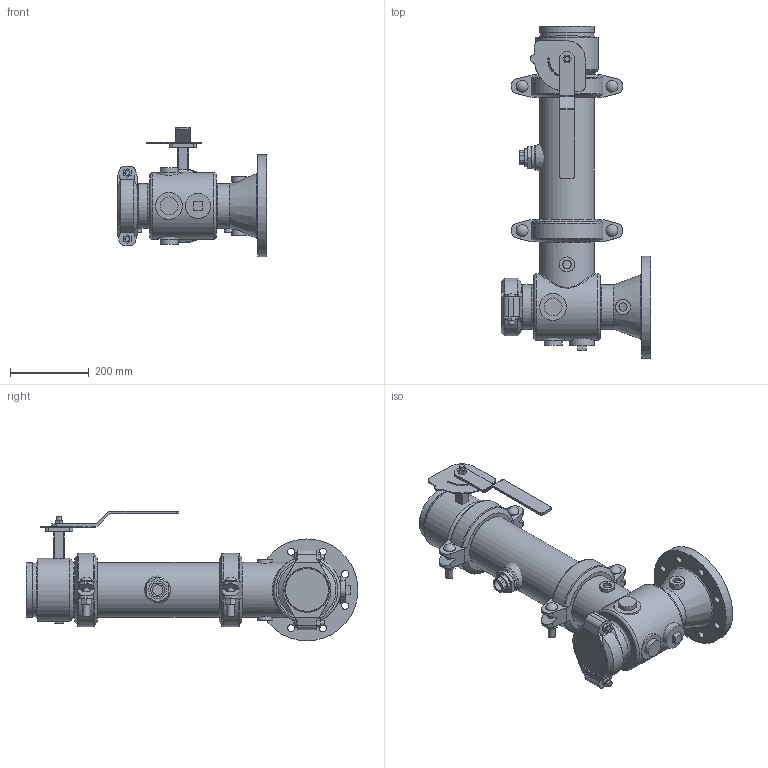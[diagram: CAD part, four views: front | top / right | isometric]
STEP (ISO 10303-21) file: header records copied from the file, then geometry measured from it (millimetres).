
FILE_DESCRIPTION(/* description */ ('VIC SVI PUMP DROP HORZ S/391 (OGSxFLG)','CAx-IF Rec.Pracs.---Representation and Presentation of Product Manufacturing Information (PMI)---4.0---2014-10-13'),/* implementation_level */ '2;1');
FILE_NAME(/* name */ 'C:\Users\kkamble\AppData\Roaming\Autodesk\ApplicationPlugins\Back Up\Victaulic_PN10_Series 391 (OGSxFLG)\Victaulic_PN10_Series 391 (OGSxFLG)_05.0 (139.7)x05.0 (139.7) (125x125).stp',/* time_stamp */ '2020-11-26T23:44:05+05:00',/* author */ ('kkamble'),/* organization */ ('Victaulic'),/* preprocessor_version */ 'ST-DEVELOPER v17.2',/* originating_system */ 'Autodesk Inventor 2019',/* authorisation */ '');
FILE_SCHEMA (('AP242_MANAGED_MODEL_BASED_3D_ENGINEERING_MIM_LF { 1 0 10303 442 1 1 4 }'));
Length unit declared in the file: inch
Products named in the file (9): 391-05.0 (139.7)x05.0 (139.7); 731D-05.0 (139.7)x05.0 (139.7); 731D-05.0 (139.7)x05.0 (139.7)_1; 731D-05.0; 07-04.0; PIPE-05.0 (139.7); 177N-05.0 (139.7); 761-05.0 (139.7); 923-04.0x0.75
Assembly tree (9 placements, depth 3):
  391-05.0 (139.7)x05.0 (139.7)
    731D-05.0 (139.7)x05.0 (139.7)
      731D-05.0 (139.7)x05.0 (139.7)_1
      731D-05.0
      07-04.0
    177N-05.0 (139.7)  x2
    PIPE-05.0 (139.7)
    761-05.0 (139.7)
    923-04.0x0.75
Bounding box: 381 x 843.53 x 329.95 mm (x, y, z)
Volume: 8346516.4 mm3; surface area: 1407489.5 mm2
Topology: 8 solids, 11 shells, 531 faces, 1377 edges, 929 vertices
Faces by surface type: plane 297, cylinder 191, cone 19, torus 17, sphere 6, bspline 1
Full cylindrical faces by diameter (mm): 4.826 x10, 8.636 x4, 12.7 x6, 17.78 x4, 18.009 x8, 20.955 x4, 22.225 x2, 22.86 x1, 26.67 x1, 30.48 x4, 38.1 x4, 45.72 x3, 45.974 x2, 55.118 x1, 55.626 x1, 63.5 x1, 84.074 x1, 90.678 x1, 96.52 x1, 107.95 x1, 110.084 x2, 113.03 x1, 114.3 x5, 121.412 x1, 126.594 x1, 127 x3, 128.194 x1, 135.484 x5, 139.7 x13, 160.02 x1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
Entity records: 15601 total; most frequent: CARTESIAN_POINT 3533, DIRECTION 2481, ORIENTED_EDGE 2274, EDGE_CURVE 1137, AXIS2_PLACEMENT_3D 946, VERTEX_POINT 770, LINE 589, VECTOR 589
